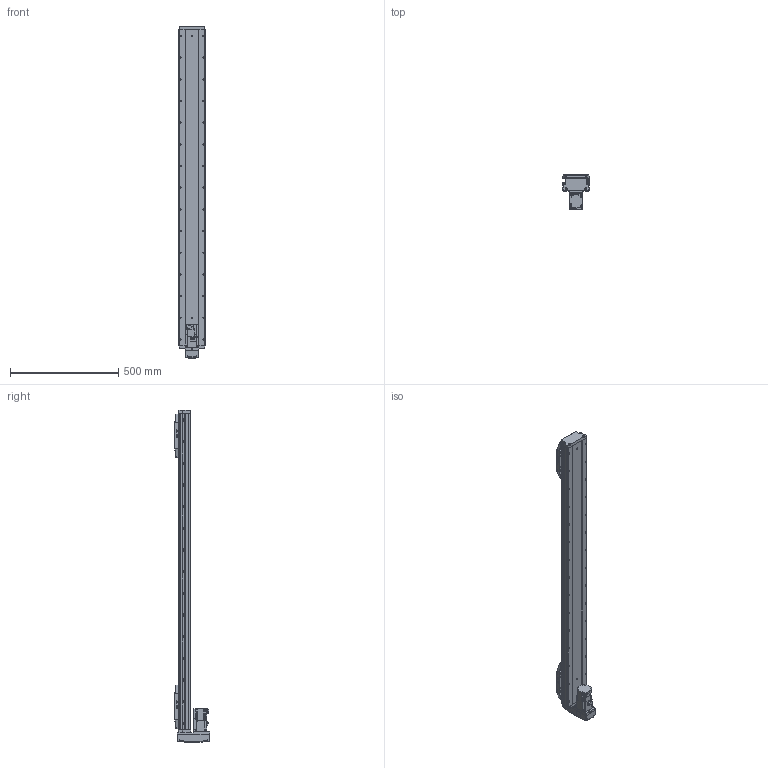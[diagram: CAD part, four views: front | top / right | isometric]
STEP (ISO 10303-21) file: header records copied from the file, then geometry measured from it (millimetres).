
FILE_DESCRIPTION (( 'STEP AP203' ), '1' );
FILE_NAME ('500.STEP', '2022-08-03T09:22:08', ( '' ), ( '' ), 'SwSTEP 2.0', 'SolidWorks 2016', '' );
FILE_SCHEMA (( 'CONFIG_CONTROL_DESIGN' ));
Length unit declared in the file: millimetre
Products named in the file (10): CTH12S-BL-07; 500; CTH12S-BM-02; CTH12S-BL-01; CTH12S-BL-HZ; CTH12S-BL-菁釱; CTH12S-BL-04; CTH12S-BL-T40; PM-Y45; CTH12S-BL-05
Assembly tree (15 placements, depth 2):
  500
    CTH12S-BL-菁釱
    CTH12S-BL-01
    CTH12S-BL-04
    CTH12S-BL-05  x2
    CTH12S-BL-07  x3
    CTH12S-BL-HZ  x2
    CTH12S-BL-T40
    PM-Y45  x3
    CTH12S-BM-02
Bounding box: 129 x 162.5 x 1531.5 mm (x, y, z)
Volume: 10084851.7 mm3; surface area: 952650.5 mm2
Topology: 36 solids, 36 shells, 2571 faces, 6718 edges, 4269 vertices
Faces by surface type: plane 1294, cylinder 764, cone 298, bspline 215
Entity records: 66253 total; most frequent: CARTESIAN_POINT 19778, ORIENTED_EDGE 9666, DIRECTION 8936, EDGE_CURVE 4833, VERTEX_POINT 3127, LINE 3094, VECTOR 3094, AXIS2_PLACEMENT_3D 2921
